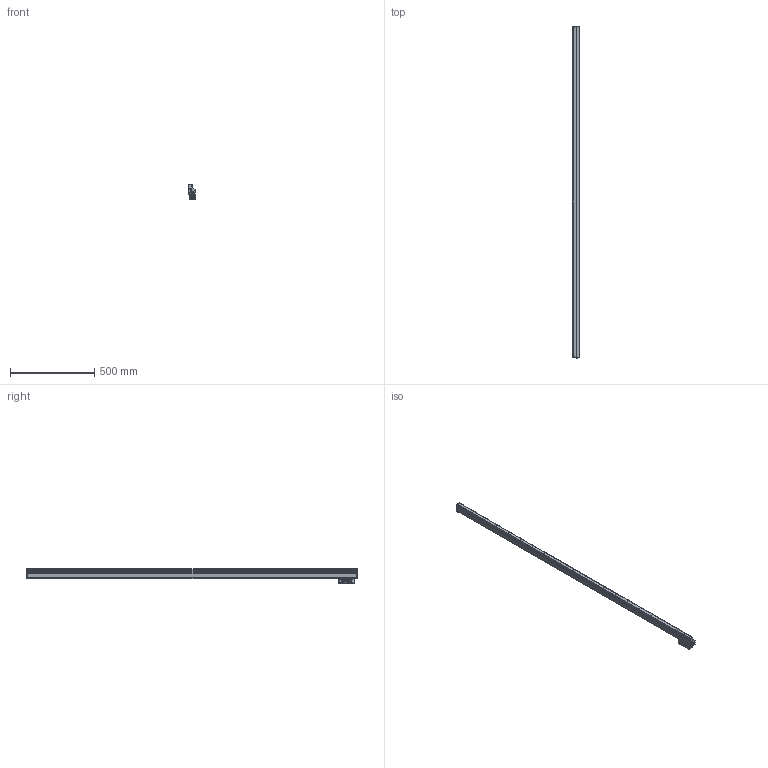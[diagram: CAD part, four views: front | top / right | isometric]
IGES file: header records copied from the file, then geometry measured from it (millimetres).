
Start section: Elysium IGES Interface
Global section: file name: 82HK:\20_商品設計\設計１課\個人\宮澤\郷間さん\AT1123\3D\NEW_ﾌｧｲﾙ\IGES\AT1123-1840.igs; native system: Creo Elements/Direct Modeling 18.1B  29-Sep-2012; preprocessor: Creo Element/Direct IGES_3D V2.2; author: Unknown; organization: Unknown; date: 20181012.093204; units: millimetre
Bounding box: 37 x 1968.31 x 85 mm (x, y, z)
Volume: 3075232.9 mm3; surface area: 440188.8 mm2
Topology: 2 solids, 2 shells, 3372 faces, 9052 edges, 5874 vertices
Faces by surface type: bspline 3372
